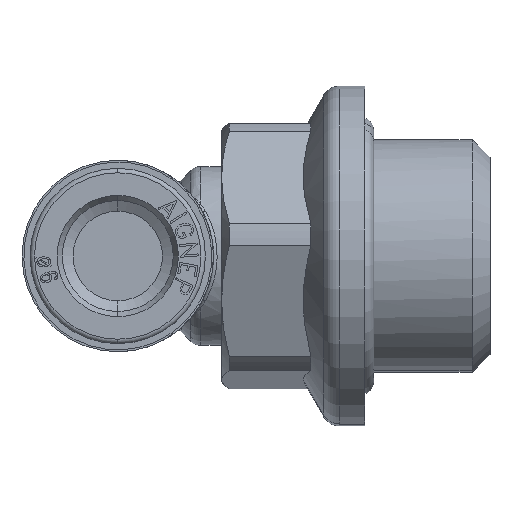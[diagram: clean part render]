
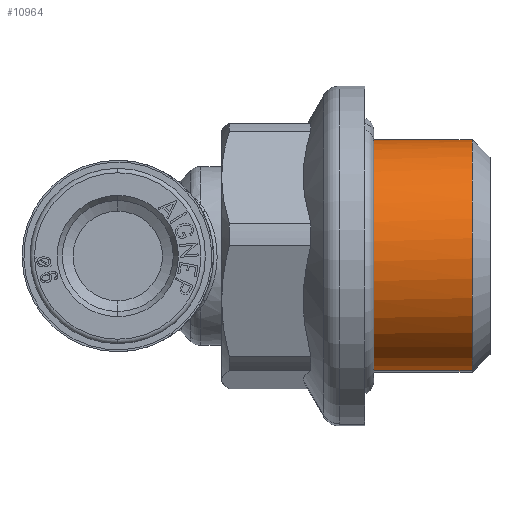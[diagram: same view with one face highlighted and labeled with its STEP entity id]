
A CAD part, front view. The second image highlights one B-rep face of the part: STEP entity #10964.
In plain terms, the highlighted cylindrical face has radius 6.5 mm (diameter 13 mm), a partial arc.
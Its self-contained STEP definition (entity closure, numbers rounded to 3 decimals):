
#45 = VECTOR ( 'NONE', #11388, 1000. ) ;
#1030 = CARTESIAN_POINT ( 'NONE',  ( 19.8, 13.5, 0. ) ) ;
#1855 = CARTESIAN_POINT ( 'NONE',  ( 19.8, 14.494, 6.424 ) ) ;
#2929 = DIRECTION ( 'NONE',  ( 0., -0.153, -0.988 ) ) ;
#2983 = FACE_OUTER_BOUND ( 'NONE', #13792, .T. ) ;
#3306 = VERTEX_POINT ( 'NONE', #8917 ) ;
#4615 = EDGE_CURVE ( 'NONE', #16487, #8600, #10823, .T. ) ;
#4803 = VERTEX_POINT ( 'NONE', #27800 ) ;
#5700 = CARTESIAN_POINT ( 'NONE',  ( 14.109, 13.5, 0. ) ) ;
#5756 = CARTESIAN_POINT ( 'NONE',  ( 14.109, 13.5, 0. ) ) ;
#5866 = DIRECTION ( 'NONE',  ( 1., 0., 0. ) ) ;
#7122 = AXIS2_PLACEMENT_3D ( 'NONE', #5700, #23588, #7305 ) ;
#7305 = DIRECTION ( 'NONE',  ( 0., 0., 1. ) ) ;
#7380 = EDGE_CURVE ( 'NONE', #16487, #3306, #25080, .T. ) ;
#8307 = AXIS2_PLACEMENT_3D ( 'NONE', #1030, #5866, #2929 ) ;
#8600 = VERTEX_POINT ( 'NONE', #28827 ) ;
#8750 = ORIENTED_EDGE ( 'NONE', *, *, #13613, .F. ) ;
#8917 = CARTESIAN_POINT ( 'NONE',  ( 14.109, 10.852, 5.936 ) ) ;
#9543 = AXIS2_PLACEMENT_3D ( 'NONE', #19574, #21631, #28064 ) ;
#9915 = EDGE_CURVE ( 'NONE', #3306, #4803, #23499, .T. ) ;
#10823 = LINE ( 'NONE', #17262, #23090 ) ;
#10964 = ADVANCED_FACE ( 'NONE', ( #2983 ), #27497, .T. ) ;
#10974 = ORIENTED_EDGE ( 'NONE', *, *, #21997, .F. ) ;
#11388 = DIRECTION ( 'NONE',  ( 1., 0., 0. ) ) ;
#12449 = AXIS2_PLACEMENT_3D ( 'NONE', #5756, #28461, #23495 ) ;
#13591 = CARTESIAN_POINT ( 'NONE',  ( 20.8, 14.494, 6.424 ) ) ;
#13613 = EDGE_CURVE ( 'NONE', #26995, #8600, #15390, .T. ) ;
#13792 = EDGE_LOOP ( 'NONE', ( #10974, #16882, #28290, #22946, #8750 ) ) ;
#15390 = CIRCLE ( 'NONE', #8307, 6.5 ) ;
#16487 = VERTEX_POINT ( 'NONE', #24288 ) ;
#16882 = ORIENTED_EDGE ( 'NONE', *, *, #9915, .F. ) ;
#17262 = CARTESIAN_POINT ( 'NONE',  ( 20.8, 12.506, -6.424 ) ) ;
#19574 = CARTESIAN_POINT ( 'NONE',  ( 20.8, 13.5, 0. ) ) ;
#19763 = DIRECTION ( 'NONE',  ( 1., 0., 0. ) ) ;
#20317 = LINE ( 'NONE', #13591, #45 ) ;
#21631 = DIRECTION ( 'NONE',  ( 1., 0., 0. ) ) ;
#21997 = EDGE_CURVE ( 'NONE', #4803, #26995, #20317, .T. ) ;
#22946 = ORIENTED_EDGE ( 'NONE', *, *, #4615, .T. ) ;
#23090 = VECTOR ( 'NONE', #19763, 1000. ) ;
#23495 = DIRECTION ( 'NONE',  ( 0., 0., 1. ) ) ;
#23499 = CIRCLE ( 'NONE', #7122, 6.5 ) ;
#23588 = DIRECTION ( 'NONE',  ( -1., 0., 0. ) ) ;
#24288 = CARTESIAN_POINT ( 'NONE',  ( 14.109, 12.506, -6.424 ) ) ;
#25080 = CIRCLE ( 'NONE', #12449, 6.5 ) ;
#26995 = VERTEX_POINT ( 'NONE', #1855 ) ;
#27497 = CYLINDRICAL_SURFACE ( 'NONE', #9543, 6.5 ) ;
#27800 = CARTESIAN_POINT ( 'NONE',  ( 14.109, 14.494, 6.424 ) ) ;
#28064 = DIRECTION ( 'NONE',  ( 0., -0.153, -0.988 ) ) ;
#28290 = ORIENTED_EDGE ( 'NONE', *, *, #7380, .F. ) ;
#28461 = DIRECTION ( 'NONE',  ( -1., 0., 0. ) ) ;
#28827 = CARTESIAN_POINT ( 'NONE',  ( 19.8, 12.506, -6.424 ) ) ;
